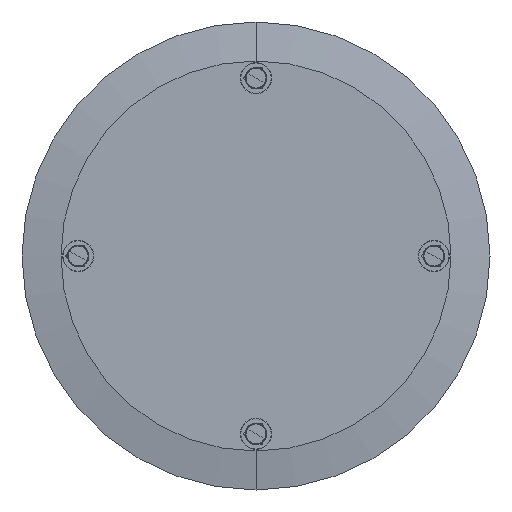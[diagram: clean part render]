
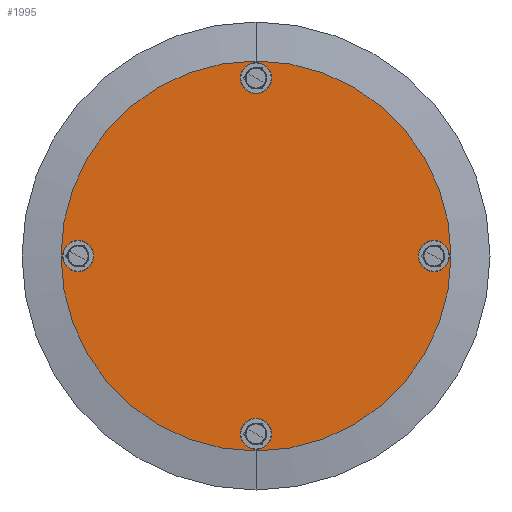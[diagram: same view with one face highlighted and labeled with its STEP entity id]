
A CAD part, front view. The second image highlights one B-rep face of the part: STEP entity #1995.
In plain terms, the highlighted planar face has unit normal (0, -1, 0).
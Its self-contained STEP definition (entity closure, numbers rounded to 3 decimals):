
#8 = CIRCLE ( 'NONE', #20, 500. ) ;
#20 = AXIS2_PLACEMENT_3D ( 'NONE', #1305, #1900, #725 ) ;
#94 = FACE_BOUND ( 'NONE', #382, .T. ) ;
#123 = CIRCLE ( 'NONE', #564, 500. ) ;
#193 = CIRCLE ( 'NONE', #1688, 40. ) ;
#261 = CIRCLE ( 'NONE', #1447, 40. ) ;
#272 = AXIS2_PLACEMENT_3D ( 'NONE', #1841, #1265, #1063 ) ;
#285 = CIRCLE ( 'NONE', #2314, 40. ) ;
#289 = CARTESIAN_POINT ( 'NONE',  ( 0., 0., -500. ) ) ;
#298 = DIRECTION ( 'NONE',  ( 0., 0., -1. ) ) ;
#311 = VERTEX_POINT ( 'NONE', #340 ) ;
#318 = CIRCLE ( 'NONE', #1352, 40. ) ;
#340 = CARTESIAN_POINT ( 'NONE',  ( 0., 0., 500. ) ) ;
#382 = EDGE_LOOP ( 'NONE', ( #812, #1353 ) ) ;
#389 = CARTESIAN_POINT ( 'NONE',  ( 0., 0., 496. ) ) ;
#405 = CARTESIAN_POINT ( 'NONE',  ( -456., 0., 40. ) ) ;
#430 = DIRECTION ( 'NONE',  ( 0., 0., -1. ) ) ;
#449 = CARTESIAN_POINT ( 'NONE',  ( 456., 0., 0. ) ) ;
#457 = DIRECTION ( 'NONE',  ( 0., 0., -1. ) ) ;
#459 = DIRECTION ( 'NONE',  ( 0., 0., -1. ) ) ;
#499 = ORIENTED_EDGE ( 'NONE', *, *, #2243, .T. ) ;
#564 = AXIS2_PLACEMENT_3D ( 'NONE', #1867, #888, #1874 ) ;
#581 = ORIENTED_EDGE ( 'NONE', *, *, #1684, .F. ) ;
#605 = EDGE_CURVE ( 'NONE', #896, #923, #193, .T. ) ;
#625 = DIRECTION ( 'NONE',  ( 0., -1., 0. ) ) ;
#669 = EDGE_LOOP ( 'NONE', ( #2501, #2361 ) ) ;
#725 = DIRECTION ( 'NONE',  ( 0., 0., 1. ) ) ;
#751 = EDGE_CURVE ( 'NONE', #2535, #1572, #1117, .T. ) ;
#772 = FACE_BOUND ( 'NONE', #669, .T. ) ;
#773 = CARTESIAN_POINT ( 'NONE',  ( 0., 0., -496. ) ) ;
#812 = ORIENTED_EDGE ( 'NONE', *, *, #1843, .F. ) ;
#819 = CARTESIAN_POINT ( 'NONE',  ( -456., 0., 0. ) ) ;
#886 = CARTESIAN_POINT ( 'NONE',  ( 0., 0., -456. ) ) ;
#888 = DIRECTION ( 'NONE',  ( 0., -1., 0. ) ) ;
#896 = VERTEX_POINT ( 'NONE', #978 ) ;
#923 = VERTEX_POINT ( 'NONE', #389 ) ;
#952 = EDGE_LOOP ( 'NONE', ( #2186, #581 ) ) ;
#975 = EDGE_CURVE ( 'NONE', #1572, #2535, #1243, .T. ) ;
#978 = CARTESIAN_POINT ( 'NONE',  ( 0., 0., 416. ) ) ;
#1012 = VERTEX_POINT ( 'NONE', #1210 ) ;
#1017 = EDGE_CURVE ( 'NONE', #1012, #2447, #2021, .T. ) ;
#1022 = FACE_BOUND ( 'NONE', #1863, .T. ) ;
#1036 = DIRECTION ( 'NONE',  ( 0., 0., 1. ) ) ;
#1051 = DIRECTION ( 'NONE',  ( 0., -1., 0. ) ) ;
#1061 = DIRECTION ( 'NONE',  ( 0., 0., -1. ) ) ;
#1063 = DIRECTION ( 'NONE',  ( 0., 0., -1. ) ) ;
#1084 = FACE_BOUND ( 'NONE', #952, .T. ) ;
#1117 = CIRCLE ( 'NONE', #1507, 40. ) ;
#1127 = CARTESIAN_POINT ( 'NONE',  ( 0., 0., 456. ) ) ;
#1141 = VERTEX_POINT ( 'NONE', #289 ) ;
#1210 = CARTESIAN_POINT ( 'NONE',  ( 0., 0., -416. ) ) ;
#1243 = CIRCLE ( 'NONE', #1674, 40. ) ;
#1264 = ORIENTED_EDGE ( 'NONE', *, *, #1387, .T. ) ;
#1265 = DIRECTION ( 'NONE',  ( 0., -1., 0. ) ) ;
#1305 = CARTESIAN_POINT ( 'NONE',  ( 0., 0., 0. ) ) ;
#1349 = CARTESIAN_POINT ( 'NONE',  ( 456., 0., 40. ) ) ;
#1352 = AXIS2_PLACEMENT_3D ( 'NONE', #886, #2260, #298 ) ;
#1353 = ORIENTED_EDGE ( 'NONE', *, *, #1017, .F. ) ;
#1360 = FACE_OUTER_BOUND ( 'NONE', #2470, .T. ) ;
#1387 = EDGE_CURVE ( 'NONE', #1141, #311, #123, .T. ) ;
#1425 = DIRECTION ( 'NONE',  ( 0., -1., 0. ) ) ;
#1447 = AXIS2_PLACEMENT_3D ( 'NONE', #449, #1820, #459 ) ;
#1496 = AXIS2_PLACEMENT_3D ( 'NONE', #1624, #625, #1798 ) ;
#1507 = AXIS2_PLACEMENT_3D ( 'NONE', #1658, #1051, #1061 ) ;
#1572 = VERTEX_POINT ( 'NONE', #2514 ) ;
#1617 = CARTESIAN_POINT ( 'NONE',  ( 0., 0., 456. ) ) ;
#1624 = CARTESIAN_POINT ( 'NONE',  ( 456., 0., 0. ) ) ;
#1634 = DIRECTION ( 'NONE',  ( 0., -1., 0. ) ) ;
#1658 = CARTESIAN_POINT ( 'NONE',  ( -456., 0., 0. ) ) ;
#1674 = AXIS2_PLACEMENT_3D ( 'NONE', #819, #1634, #457 ) ;
#1684 = EDGE_CURVE ( 'NONE', #2346, #2183, #2018, .T. ) ;
#1688 = AXIS2_PLACEMENT_3D ( 'NONE', #1617, #1425, #430 ) ;
#1704 = AXIS2_PLACEMENT_3D ( 'NONE', #2244, #2207, #1036 ) ;
#1798 = DIRECTION ( 'NONE',  ( 0., 0., -1. ) ) ;
#1820 = DIRECTION ( 'NONE',  ( 0., -1., 0. ) ) ;
#1841 = CARTESIAN_POINT ( 'NONE',  ( 0., 0., -456. ) ) ;
#1843 = EDGE_CURVE ( 'NONE', #2447, #1012, #318, .T. ) ;
#1857 = CARTESIAN_POINT ( 'NONE',  ( 456., 0., -40. ) ) ;
#1863 = EDGE_LOOP ( 'NONE', ( #2385, #2124 ) ) ;
#1867 = CARTESIAN_POINT ( 'NONE',  ( 0., 0., 0. ) ) ;
#1874 = DIRECTION ( 'NONE',  ( 0., 0., 1. ) ) ;
#1900 = DIRECTION ( 'NONE',  ( 0., -1., 0. ) ) ;
#1995 = ADVANCED_FACE ( 'NONE', ( #1084, #94, #1022, #772, #1360 ), #2020, .F. ) ;
#2018 = CIRCLE ( 'NONE', #1496, 40. ) ;
#2020 = PLANE ( 'NONE',  #1704 ) ;
#2021 = CIRCLE ( 'NONE', #272, 40. ) ;
#2032 = EDGE_CURVE ( 'NONE', #2183, #2346, #261, .T. ) ;
#2124 = ORIENTED_EDGE ( 'NONE', *, *, #751, .F. ) ;
#2183 = VERTEX_POINT ( 'NONE', #1857 ) ;
#2186 = ORIENTED_EDGE ( 'NONE', *, *, #2032, .F. ) ;
#2207 = DIRECTION ( 'NONE',  ( 0., 1., 0. ) ) ;
#2243 = EDGE_CURVE ( 'NONE', #311, #1141, #8, .T. ) ;
#2244 = CARTESIAN_POINT ( 'NONE',  ( 0., 0., 0. ) ) ;
#2260 = DIRECTION ( 'NONE',  ( 0., -1., 0. ) ) ;
#2264 = EDGE_CURVE ( 'NONE', #923, #896, #285, .T. ) ;
#2307 = DIRECTION ( 'NONE',  ( 0., -1., 0. ) ) ;
#2314 = AXIS2_PLACEMENT_3D ( 'NONE', #1127, #2307, #2518 ) ;
#2346 = VERTEX_POINT ( 'NONE', #1349 ) ;
#2361 = ORIENTED_EDGE ( 'NONE', *, *, #2264, .F. ) ;
#2385 = ORIENTED_EDGE ( 'NONE', *, *, #975, .F. ) ;
#2447 = VERTEX_POINT ( 'NONE', #773 ) ;
#2470 = EDGE_LOOP ( 'NONE', ( #499, #1264 ) ) ;
#2501 = ORIENTED_EDGE ( 'NONE', *, *, #605, .F. ) ;
#2514 = CARTESIAN_POINT ( 'NONE',  ( -456., 0., -40. ) ) ;
#2518 = DIRECTION ( 'NONE',  ( 0., 0., -1. ) ) ;
#2535 = VERTEX_POINT ( 'NONE', #405 ) ;
